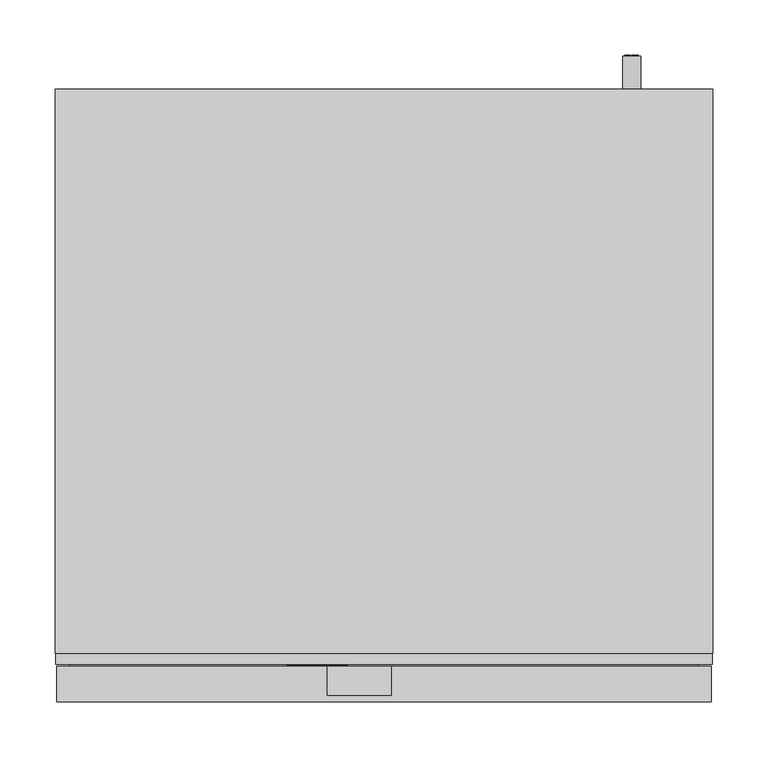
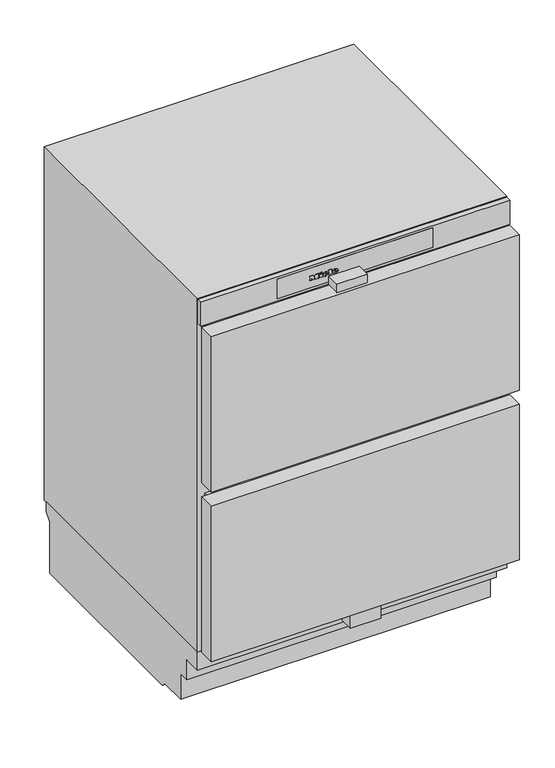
"""IFC4 building model written with IfcOpenShell, lengths in millimetres: proxy geometry, 12930520_USA_KU7175D : 36717510_USA_12930520_KU7175D."""

from ifc_helpers import new_model, si_unit, point, frame, frame_2d, origin, origin_with_axes, place, context, project, spatial, polyline, circle_curve, ellipse_curve, trimmed, segment, composite_curve, outline, extrude, faceted_brep, source, transform, mapped, element, save
from ifc_brep_helpers import plane_surface, cylinder_surface, revolved_surface, extruded_surface, advanced_brep


def specialty_equipment_b4c2bd8a(model_context):
    return source(origin(), model_context, "Body", "SolidModel", [
        extrude(outline(polyline([(835.9349293, -88.017), (835.9349293, -86.928), (829.9139293, -86.928), (829.9139293, -88.017), (828.4019293, -88.017), (828.4019293, -84.057), (829.9139293, -84.057), (829.9139293, -85.137), (833.7360541, -85.137), (828.4019293, -81.114), (833.8421516, -77.073), (829.9139293, -77.073), (829.9139293, -78.18), (828.4019293, -78.18), (828.4019293, -70.998), (829.9139293, -70.998), (829.9139293, -72.141), (835.9349293, -72.141), (835.9349293, -70.998), (837.4019293, -70.998), (837.4019293, -76.479), (834.0269293, -79.107), (837.4019293, -81.744), (837.4019293, -88.017), (835.9349293, -88.017)])), frame((0.0, 33.1, 0.0), z_axis=(0.0, 1.0, 0.0), x_axis=(0.0, 0.0, 1.0)), (0.0, 0.0, 1.0), 1.0),
        extrude(outline(polyline([(835.9349293, -51.495), (835.9349293, -50.415), (829.9139293, -50.415), (829.9139293, -51.495), (828.4019293, -51.495), (828.4019293, -44.196), (829.9139293, -44.196), (829.9139293, -45.303), (837.4019293, -45.303), (837.4019293, -51.495), (835.9349293, -51.495)])), frame((0.0, 33.1, 0.0), z_axis=(0.0, 1.0, 0.0), x_axis=(0.0, 0.0, 1.0)), (0.0, 0.0, 1.0), 1.0),
        extrude(outline(polyline([(836.8709293, -67.857), (835.4129293, -67.173), (836.8349293, -64.122), (838.2929293, -64.797), (836.8709293, -67.857)])), frame((0.0, 33.1, 0.0), z_axis=(0.0, 1.0, 0.0), x_axis=(0.0, 0.0, 1.0)), (0.0, 0.0, 1.0), 1.0),
        extrude(outline(polyline([(835.2149293, -70.08), (833.6039293, -70.08), (833.6039293, -69.009), (829.9139293, -69.009), (829.9139293, -70.08), (828.4019293, -70.08), (828.4019293, -62.979), (829.9139293, -62.979), (829.9139293, -64.023), (835.2149293, -64.023), (835.2149293, -70.08)])), frame((0.0, 33.1, 0.0), z_axis=(0.0, 1.0, 0.0), x_axis=(0.0, 0.0, 1.0)), (0.0, 0.0, 1.0), 1.0),
        advanced_brep(
        [(-58.02, 33.1, 830.5349293), (-58.02, 33.1, 831.4439293), (-51.999, 33.1, 831.4439293), (-62.475, 33.1, 831.4439293), (-60.0, 33.1, 828.4019293), (-52.152, 33.1, 830.5349293), (-54.87, 33.1, 830.5349293), (-57.012, 33.1, 829.5269293), (-58.02, 33.1, 832.5959293), (-58.02, 33.1, 833.5769293), (-56.481, 33.1, 833.5769293), (-56.481, 33.1, 832.5959293), (-58.02, 34.1, 830.5349293), (-57.012, 34.1, 829.5269293), (-54.87, 34.1, 830.5349293), (-52.152, 34.1, 830.5349293), (-60.0, 34.1, 828.4019293), (-62.475, 34.1, 831.4439293), (-51.999, 34.1, 831.4439293), (-58.02, 34.1, 831.4439293), (-58.02, 34.1, 832.5959293), (-56.481, 34.1, 832.5959293), (-56.481, 34.1, 833.5769293), (-58.02, 34.1, 833.5769293)],
        [
            (0, 1),
            (1, 2),
            (2, 3, ellipse_curve(frame((-57.237, 33.1, 831.4439293), z_axis=(0.0, -1.0, 0.0), x_axis=(-1.0, 0.0, 0.0)), 5.238, 4.329)),
            (3, 4, circle_curve(frame((-58.9919509, 33.1, 831.7499293), z_axis=(0.0, -1.0, 0.0), x_axis=(0.0, 0.0, -1.0)), 3.4964649)),
            (4, 5, circle_curve(frame((-57.3418572, 33.1, 834.1259293), z_axis=(0.0, -1.0, 0.0), x_axis=(0.0, 0.0, -1.0)), 6.3110933)),
            (5, 6),
            (6, 7, circle_curve(frame((-56.5720588, 33.1, 831.3719293), z_axis=(0.0, 1.0, 0.0), x_axis=(0.0, 0.0, -1.0)), 1.896727)),
            (7, 0, circle_curve(frame((-57.012, 33.1, 830.5349293), z_axis=(0.0, 1.0, 0.0), x_axis=(0.0, 0.0, -1.0)), 1.008)),
            (8, 9),
            (9, 10, circle_curve(frame((-57.2505, 33.1, 833.5769293), z_axis=(0.0, 1.0, 0.0), x_axis=(0.0, 0.0, -1.0)), 0.7695)),
            (10, 11),
            (11, 8),
            (12, 13, circle_curve(frame((-57.012, 34.1, 830.5349293), z_axis=(0.0, -1.0, 0.0), x_axis=(0.0, 0.0, -1.0)), 1.008)),
            (13, 14, circle_curve(frame((-56.5720588, 34.1, 831.3719293), z_axis=(0.0, -1.0, 0.0), x_axis=(0.0, 0.0, -1.0)), 1.896727)),
            (14, 15),
            (15, 16, circle_curve(frame((-57.3418572, 34.1, 834.1259293), z_axis=(0.0, 1.0, 0.0), x_axis=(0.0, 0.0, -1.0)), 6.3110933)),
            (16, 17, circle_curve(frame((-58.9919509, 34.1, 831.7499293), z_axis=(0.0, 1.0, 0.0), x_axis=(0.0, 0.0, -1.0)), 3.4964649)),
            (17, 18, ellipse_curve(frame((-57.237, 34.1, 831.4439293), z_axis=(0.0, 1.0, 0.0), x_axis=(-1.0, 0.0, 0.0)), 5.238, 4.329)),
            (18, 19),
            (19, 12),
            (20, 21),
            (21, 22),
            (22, 23, circle_curve(frame((-57.2505, 34.1, 833.5769293), z_axis=(0.0, -1.0, 0.0), x_axis=(0.0, 0.0, -1.0)), 0.7695)),
            (23, 20),
            (0, 12),
            (19, 1),
            (18, 2),
            (5, 15),
            (14, 6),
            (17, 3),
            (13, 7),
            (16, 4),
            (8, 20),
            (23, 9),
            (22, 10),
            (21, 11),
        ],
        [
            plane_surface(frame((-58.02, 33.1, 831.4439293), z_axis=(0.0, -1.0, 0.0), x_axis=(0.0, 0.0, 1.0))),
            plane_surface(frame((-58.02, 34.1, 831.4439293), z_axis=(0.0, 1.0, 0.0), x_axis=(0.0, 0.0, -1.0))),
            plane_surface(frame((-58.02, 33.1, 830.5349293), z_axis=(1.0, 0.0, 0.0), x_axis=(0.0, 1.0, 0.0))),
            plane_surface(frame((-58.02, 33.1, 831.4439293), z_axis=(0.0, 0.0, -1.0), x_axis=(0.0, 1.0, 0.0))),
            plane_surface(frame((-52.152, 33.1, 830.5349293), z_axis=(0.0, 0.0, 1.0), x_axis=(0.0, 1.0, 0.0))),
            extruded_surface(trimmed(ellipse_curve(frame((-57.237, 35.1, 831.4439293), z_axis=(0.0, -1.0, 0.0), x_axis=(-1.0, 0.0, 0.0)), 5.238, 4.329), [point((-51.999, 35.1, 831.4439293))], [point((-62.475, 35.1, 831.4439293))], True, "CARTESIAN"), (0.0, -1.0, 0.0), 1.0),
            revolved_surface(polyline([(-56.5720588, 34.1, 829.4752023), (-56.5720588, 33.1, 829.4752023)]), (-56.5720588, 34.1, 831.3719293), (0.0, 1.0, 0.0)),
            revolved_surface(polyline([(-57.012, 34.1, 829.5269293), (-57.012, 33.1, 829.5269293)]), (-57.012, 34.1, 830.5349293), (0.0, 1.0, 0.0)),
            cylinder_surface(frame((-58.9919509, 34.1, 831.7499293), z_axis=(0.0, -1.0, 0.0), x_axis=(0.0, 0.0, -1.0)), 3.4964649),
            cylinder_surface(frame((-57.3418572, 34.1, 834.1259293), z_axis=(0.0, -1.0, 0.0), x_axis=(0.0, 0.0, -1.0)), 6.3110933),
            plane_surface(frame((-58.02, 33.1, 832.5959293), z_axis=(1.0, 0.0, 0.0), x_axis=(0.0, 1.0, 0.0))),
            revolved_surface(polyline([(-57.2505, 34.1, 832.8074293), (-57.2505, 33.1, 832.8074293)]), (-57.2505, 34.1, 833.5769293), (0.0, 1.0, 0.0)),
            plane_surface(frame((-56.481, 33.1, 833.5769293), z_axis=(-1.0, 0.0, 0.0), x_axis=(0.0, 1.0, 0.0))),
            plane_surface(frame((-56.481, 33.1, 832.5959293), z_axis=(0.0, 0.0, 1.0), x_axis=(0.0, 1.0, 0.0))),
        ],
        [
            (0, [[1, 2, 3, 4, 5, 6, 7, 8], [9, 10, 11, 12]]),
            (1, [[13, 14, 15, 16, 17, 18, 19, 20], [21, 22, 23, 24]]),
            (2, [[-1, 25, -20, 26]]),
            (3, [[-2, -26, -19, 27]]),
            (4, [[-6, 28, -15, 29]]),
            (5, [[-3, -27, -18, 30]]),
            (6, [[-7, -29, -14, 31]]),
            (7, [[-8, -31, -13, -25]]),
            (8, [[-4, -30, -17, 32]]),
            (9, [[-5, -32, -16, -28]]),
            (10, [[-9, 33, -24, 34]]),
            (11, [[-10, -34, -23, 35]]),
            (12, [[-11, -35, -22, 36]]),
            (13, [[-12, -36, -21, -33]]),
        ],
    ),
        advanced_brep(
        [(-39.237, 33.1, 830.5349293), (-39.237, 33.1, 831.4439293), (-33.216, 33.1, 831.4439293), (-43.692, 33.1, 831.4439293), (-41.217, 33.1, 828.4019293), (-33.369, 33.1, 830.5349293), (-36.087, 33.1, 830.5349293), (-38.229, 33.1, 829.5269293), (-39.237, 33.1, 832.5959293), (-39.237, 33.1, 833.5769293), (-37.698, 33.1, 833.5769293), (-37.698, 33.1, 832.5959293), (-39.237, 34.1, 830.5349293), (-38.229, 34.1, 829.5269293), (-36.087, 34.1, 830.5349293), (-33.369, 34.1, 830.5349293), (-41.217, 34.1, 828.4019293), (-43.692, 34.1, 831.4439293), (-33.216, 34.1, 831.4439293), (-39.237, 34.1, 831.4439293), (-39.237, 34.1, 832.5959293), (-37.698, 34.1, 832.5959293), (-37.698, 34.1, 833.5769293), (-39.237, 34.1, 833.5769293)],
        [
            (0, 1),
            (1, 2),
            (2, 3, ellipse_curve(frame((-38.454, 33.1, 831.4439293), z_axis=(0.0, -1.0, 0.0), x_axis=(-1.0, 0.0, 0.0)), 5.238, 4.329)),
            (3, 4, circle_curve(frame((-40.2089509, 33.1, 831.7499293), z_axis=(0.0, -1.0, 0.0), x_axis=(0.0, 0.0, -1.0)), 3.4964649)),
            (4, 5, circle_curve(frame((-38.5588572, 33.1, 834.1259293), z_axis=(0.0, -1.0, 0.0), x_axis=(0.0, 0.0, -1.0)), 6.3110933)),
            (5, 6),
            (6, 7, circle_curve(frame((-37.7890588, 33.1, 831.3719293), z_axis=(0.0, 1.0, 0.0), x_axis=(0.0, 0.0, -1.0)), 1.896727)),
            (7, 0, circle_curve(frame((-38.229, 33.1, 830.5349293), z_axis=(0.0, 1.0, 0.0), x_axis=(0.0, 0.0, -1.0)), 1.008)),
            (8, 9),
            (9, 10, circle_curve(frame((-38.4675, 33.1, 833.5769293), z_axis=(0.0, 1.0, 0.0), x_axis=(0.0, 0.0, -1.0)), 0.7695)),
            (10, 11),
            (11, 8),
            (12, 13, circle_curve(frame((-38.229, 34.1, 830.5349293), z_axis=(0.0, -1.0, 0.0), x_axis=(0.0, 0.0, -1.0)), 1.008)),
            (13, 14, circle_curve(frame((-37.7890588, 34.1, 831.3719293), z_axis=(0.0, -1.0, 0.0), x_axis=(0.0, 0.0, -1.0)), 1.896727)),
            (14, 15),
            (15, 16, circle_curve(frame((-38.5588572, 34.1, 834.1259293), z_axis=(0.0, 1.0, 0.0), x_axis=(0.0, 0.0, -1.0)), 6.3110933)),
            (16, 17, circle_curve(frame((-40.2089509, 34.1, 831.7499293), z_axis=(0.0, 1.0, 0.0), x_axis=(0.0, 0.0, -1.0)), 3.4964649)),
            (17, 18, ellipse_curve(frame((-38.454, 34.1, 831.4439293), z_axis=(0.0, 1.0, 0.0), x_axis=(-1.0, 0.0, 0.0)), 5.238, 4.329)),
            (18, 19),
            (19, 12),
            (20, 21),
            (21, 22),
            (22, 23, circle_curve(frame((-38.4675, 34.1, 833.5769293), z_axis=(0.0, -1.0, 0.0), x_axis=(0.0, 0.0, -1.0)), 0.7695)),
            (23, 20),
            (0, 12),
            (19, 1),
            (18, 2),
            (5, 15),
            (14, 6),
            (17, 3),
            (13, 7),
            (16, 4),
            (8, 20),
            (23, 9),
            (22, 10),
            (21, 11),
        ],
        [
            plane_surface(frame((-39.237, 33.1, 831.4439293), z_axis=(0.0, -1.0, 0.0), x_axis=(0.0, 0.0, 1.0))),
            plane_surface(frame((-39.237, 34.1, 831.4439293), z_axis=(0.0, 1.0, 0.0), x_axis=(0.0, 0.0, -1.0))),
            plane_surface(frame((-39.237, 33.1, 830.5349293), z_axis=(1.0, 0.0, 0.0), x_axis=(0.0, 1.0, 0.0))),
            plane_surface(frame((-39.237, 33.1, 831.4439293), z_axis=(0.0, 0.0, -1.0), x_axis=(0.0, 1.0, 0.0))),
            plane_surface(frame((-33.369, 33.1, 830.5349293), z_axis=(0.0, 0.0, 1.0), x_axis=(0.0, 1.0, 0.0))),
            extruded_surface(trimmed(ellipse_curve(frame((-38.454, 35.1, 831.4439293), z_axis=(0.0, -1.0, 0.0), x_axis=(-1.0, 0.0, 0.0)), 5.238, 4.329), [point((-33.216, 35.1, 831.4439293))], [point((-43.692, 35.1, 831.4439293))], True, "CARTESIAN"), (0.0, -1.0, 0.0), 1.0),
            revolved_surface(polyline([(-37.7890588, 34.1, 829.4752023), (-37.7890588, 33.1, 829.4752023)]), (-37.7890588, 34.1, 831.3719293), (0.0, 1.0, 0.0)),
            revolved_surface(polyline([(-38.229, 34.1, 829.5269293), (-38.229, 33.1, 829.5269293)]), (-38.229, 34.1, 830.5349293), (0.0, 1.0, 0.0)),
            cylinder_surface(frame((-40.2089509, 34.1, 831.7499293), z_axis=(0.0, -1.0, 0.0), x_axis=(0.0, 0.0, -1.0)), 3.4964649),
            cylinder_surface(frame((-38.5588572, 34.1, 834.1259293), z_axis=(0.0, -1.0, 0.0), x_axis=(0.0, 0.0, -1.0)), 6.3110933),
            plane_surface(frame((-39.237, 33.1, 832.5959293), z_axis=(1.0, 0.0, 0.0), x_axis=(0.0, 1.0, 0.0))),
            revolved_surface(polyline([(-38.4675, 34.1, 832.8074293), (-38.4675, 33.1, 832.8074293)]), (-38.4675, 34.1, 833.5769293), (0.0, 1.0, 0.0)),
            plane_surface(frame((-37.698, 33.1, 833.5769293), z_axis=(-1.0, 0.0, 0.0), x_axis=(0.0, 1.0, 0.0))),
            plane_surface(frame((-37.698, 33.1, 832.5959293), z_axis=(0.0, 0.0, 1.0), x_axis=(0.0, 1.0, 0.0))),
        ],
        [
            (0, [[1, 2, 3, 4, 5, 6, 7, 8], [9, 10, 11, 12]]),
            (1, [[13, 14, 15, 16, 17, 18, 19, 20], [21, 22, 23, 24]]),
            (2, [[-1, 25, -20, 26]]),
            (3, [[-2, -26, -19, 27]]),
            (4, [[-6, 28, -15, 29]]),
            (5, [[-3, -27, -18, 30]]),
            (6, [[-7, -29, -14, 31]]),
            (7, [[-8, -31, -13, -25]]),
            (8, [[-4, -30, -17, 32]]),
            (9, [[-5, -32, -16, -28]]),
            (10, [[-9, 33, -24, 34]]),
            (11, [[-10, -34, -23, 35]]),
            (12, [[-11, -35, -22, 36]]),
            (13, [[-12, -36, -21, -33]]),
        ],
    ),
        extrude(outline(polyline([(150.0048218, 34.0937347), (-150.0048218, 34.0937347), (-150.0048218, 44.0), (150.0048218, 44.0), (150.0048218, 34.0937347)])), frame((0.0, 0.0, 813.2139282), z_axis=(0.0, 0.0, 1.0), x_axis=(1.0, 0.0, 0.0)), (0.0, 0.0, 1.0), 39.9850464),
        extrude(outline(polyline([(857.6989746, 298.0), (857.6989746, -298.0), (808.7051238, -298.0), (808.7051238, 298.0), (857.6989746, 298.0)]), holes=[polyline([(853.1989746, -150.0048218), (853.1989746, 150.0048218), (813.2139282, 150.0048218), (813.2139282, -150.0048218), (853.1989746, -150.0048218)])]), frame((0.0, 34.0937347, 0.0), z_axis=(0.0, 1.0, 0.0), x_axis=(0.0, 0.0, 1.0)), (0.0, 0.0, 1.0), 9.9062653),
        faceted_brep([(-298.5, 550.1, 137.8999939), (-298.5, 550.1, 117.6051112), (-298.5, 537.6, 105.1051112), (-298.5, 537.6, 0.0), (-298.5, 161.2567793, 0.0), (-298.5, 152.9391747, 8.3176046), (-298.5, 100.0, 8.3176046), (-298.5, 100.0, 60.7725754), (-298.5, 79.0216446, 60.7725754), (-298.5, 79.0216446, 101.8184894), (-298.5, 44.0, 101.8184894), (-298.5, 44.0, 137.8999939), (298.5, 550.1, 137.8999939), (298.5, 44.0, 137.8999939), (298.5, 44.0, 101.8184894), (298.5, 79.0216446, 101.8184894), (298.5, 79.0216446, 60.7725754), (298.5, 100.0, 60.7725754), (298.5, 100.0, 8.3176046), (298.5, 152.9391747, 8.3176046), (298.5, 161.2567793, 0.0), (298.5, 537.6, 0.0), (298.5, 537.6, 105.1051112), (298.5, 550.1, 117.6051112), (296.7000122, 463.8596389, 0.0), (256.5957336, 463.8596389, 0.0), (256.5957336, 399.1975098, 0.0), (296.7000122, 399.1975098, 0.0), (-296.7000122, 463.8596389, 0.0), (-296.7000122, 399.1975098, 0.0), (-256.5957336, 399.1975098, 0.0), (-256.5957336, 463.8596389, 0.0), (296.7000122, 463.8596389, 8.7371401), (296.7000122, 399.1975098, 8.7371401), (256.5957336, 399.1975098, 8.7371401), (256.5957336, 463.8596389, 8.7371401), (-296.7000122, 463.8596389, 8.7371401), (-256.5957336, 463.8596389, 8.7371401), (-256.5957336, 399.1975098, 8.7371401), (-296.7000122, 399.1975098, 8.7371401)], [[[0, 1, 2, 3, 4, 5, 6, 7, 8, 9, 10, 11]], [[12, 13, 14, 15, 16, 17, 18, 19, 20, 21, 22, 23]], [[0, 11, 13, 12]], [[11, 10, 14, 13]], [[10, 9, 15, 14]], [[9, 8, 16, 15]], [[8, 7, 17, 16]], [[7, 6, 18, 17]], [[6, 5, 19, 18]], [[5, 4, 20, 19]], [[4, 3, 21, 20], [24, 25, 26, 27], [28, 29, 30, 31]], [[3, 2, 22, 21]], [[2, 1, 23, 22]], [[1, 0, 12, 23]], [[32, 33, 34, 35]], [[36, 37, 38, 39]], [[32, 35, 25, 24]], [[35, 34, 26, 25]], [[34, 33, 27, 26]], [[33, 32, 24, 27]], [[36, 39, 29, 28]], [[39, 38, 30, 29]], [[38, 37, 31, 30]], [[37, 36, 28, 31]]]),
        faceted_brep([(298.5, 44.0, 859.0), (298.5, 44.0, 137.8999939), (298.5, 556.2, 137.8999939), (298.5, 556.2, 859.0), (-298.5, 44.0, 859.0), (-298.5, 556.2, 859.0), (-298.5, 556.2, 137.8999939), (-298.5, 44.0, 137.8999939), (263.0, 44.0, 759.0), (263.0, 44.0, 160.0), (-263.0, 44.0, 160.0), (-263.0, 44.0, 759.0), (263.0, 510.8638012, 160.0), (263.0, 510.8638012, 759.0), (-263.0, 510.8638012, 759.0), (-263.0, 510.8638012, 160.0)], [[[0, 1, 2, 3]], [[4, 5, 6, 7]], [[1, 0, 4, 7], [8, 9, 10, 11]], [[2, 1, 7, 6]], [[3, 2, 6, 5]], [[0, 3, 5, 4]], [[12, 13, 14, 15]], [[13, 12, 9, 8]], [[14, 13, 8, 11]], [[15, 14, 11, 10]], [[12, 15, 10, 9]]]),
        extrude(outline(polyline([(263.0, 510.8638012), (263.0, 339.3), (-263.0, 339.3), (-263.0, 510.8638012), (263.0, 510.8638012)])), frame((0.0, 0.0, 160.0), z_axis=(0.0, 0.0, 1.0), x_axis=(1.0, 0.0, 0.0)), (0.0, 0.0, 1.0), 61.8999939),
        extrude(outline(composite_curve([segment(trimmed(circle_curve(frame_2d((-270.8532135, 136.0)), 15.7049948), [point((-286.5582083, 136.0))], [point((-255.1482187, 136.0))], False, "CARTESIAN"), True, "CONTINUOUS"), segment(trimmed(circle_curve(frame_2d((-270.8532135, 136.0)), 15.7049948), [point((-255.1482187, 136.0))], [point((-286.5582083, 136.0))], False, "CARTESIAN"), True, "CONTINUOUS")], self_intersect=False)), origin_with_axes(), (0.0, 0.0, 1.0), 8.3176046),
        extrude(outline(composite_curve([segment(trimmed(circle_curve(frame_2d((270.8532135, 136.0)), 15.7049948), [point((286.5582083, 136.0))], [point((255.1482187, 136.0))], False, "CARTESIAN"), True, "CONTINUOUS"), segment(trimmed(circle_curve(frame_2d((270.8532135, 136.0)), 15.7049948), [point((255.1482187, 136.0))], [point((286.5582083, 136.0))], False, "CARTESIAN"), True, "CONTINUOUS")], self_intersect=False)), origin_with_axes(), (0.0, 0.0, 1.0), 8.3176046),
        extrude(outline(composite_curve([segment(trimmed(circle_curve(frame_2d((-275.822369, 437.7)), 16.0), [point((-291.822369, 437.7))], [point((-259.822369, 437.7))], False, "CARTESIAN"), True, "CONTINUOUS"), segment(trimmed(circle_curve(frame_2d((-275.822369, 437.7)), 16.0), [point((-259.822369, 437.7))], [point((-291.822369, 437.7))], False, "CARTESIAN"), True, "CONTINUOUS")], self_intersect=False)), origin_with_axes(), (0.0, 0.0, 1.0), 8.3176046),
        extrude(outline(composite_curve([segment(trimmed(circle_curve(frame_2d((275.822369, 437.7)), 16.0), [point((259.822369, 437.7))], [point((291.822369, 437.7))], False, "CARTESIAN"), True, "CONTINUOUS"), segment(trimmed(circle_curve(frame_2d((275.822369, 437.7)), 16.0), [point((291.822369, 437.7))], [point((259.822369, 437.7))], False, "CARTESIAN"), True, "CONTINUOUS")], self_intersect=False)), origin_with_axes(), (0.0, 0.0, 1.0), 8.3176046),
        extrude(outline(polyline([(263.0, 44.0), (-263.0, 44.0), (-263.0, 510.8638012), (263.0, 510.8638012), (263.0, 44.0)])), frame((0.0, 0.0, 429.4645996), z_axis=(0.0, 0.0, 1.0), x_axis=(1.0, 0.0, 0.0)), (0.0, 0.0, 1.0), 94.0),
        extrude(outline(composite_curve([segment(polyline([(-167.6368194, 33.3343317), (-174.9999695, 43.8499999), (174.9999695, 43.8499999), (167.6368194, 33.3343317)]), True, "CONTINUOUS"), segment(trimmed(circle_curve(frame_2d((166.0338376, 34.4567516)), 1.9568794), [point((167.6368194, 33.3343317))], [point((166.0114746, 32.5))], False, "CARTESIAN"), True, "CONTINUOUS"), segment(polyline([(166.0114746, 32.5), (-166.0114746, 32.5)]), True, "CONTINUOUS"), segment(trimmed(circle_curve(frame_2d((-166.0338376, 34.4567516)), 1.9568794), [point((-166.0114746, 32.5))], [point((-167.6368194, 33.3343317))], False, "CARTESIAN"), True, "CONTINUOUS")], self_intersect=False)), frame((0.0, 0.0, 466.532135), z_axis=(0.0, 0.0, 1.0), x_axis=(1.0, 0.0, 0.0)), (0.0, 0.0, 1.0), 19.8649292),
        extrude(outline(composite_curve([segment(trimmed(circle_curve(frame_2d((144.2460785, 224.8152695)), 8.0), [point((144.2460785, 216.8152695))], [point((144.2460785, 232.8152695))], False, "CARTESIAN"), True, "CONTINUOUS"), segment(trimmed(circle_curve(frame_2d((144.2460785, 224.8152695)), 8.0), [point((144.2460785, 232.8152695))], [point((144.2460785, 216.8152695))], False, "CARTESIAN"), True, "CONTINUOUS")], self_intersect=False)), frame((0.0, 556.2, 0.0), z_axis=(0.0, 1.0, 0.0), x_axis=(0.0, 0.0, 1.0)), (0.0, 0.0, 1.0), 30.0),
        extrude(outline(polyline([(140.2460785, 230.7170777), (148.2825833, 230.7170777), (148.2825833, 224.9408399), (147.2780202, 224.9408399), (147.2780202, 229.7125146), (144.8921828, 229.7125146), (144.8921828, 225.1919806), (143.8876197, 225.1919806), (143.8876197, 229.7125146), (141.2506416, 229.7125146), (141.2506416, 224.8152695), (140.2460785, 224.8152695), (140.2460785, 230.7170777)])), frame((0.0, 586.2, 0.0), z_axis=(0.0, 1.0, 0.0), x_axis=(0.0, 0.0, 1.0)), (0.0, 0.0, 1.0), 1.0),
        extrude(outline(polyline([(140.2460785, 223.3084248), (148.2825833, 223.3084248), (148.2825833, 222.3038617), (141.2506416, 222.3038617), (141.2506416, 218.2856093), (140.2460785, 218.2856093), (140.2460785, 223.3084248)])), frame((0.0, 586.2, 0.0), z_axis=(0.0, 1.0, 0.0), x_axis=(0.0, 0.0, 1.0)), (0.0, 0.0, 1.0), 1.0),
        faceted_brep([(297.0, 0.0, 808.0), (-297.0, 0.0, 808.0), (-297.0, 0.0, 491.0), (297.0, 0.0, 491.0), (-297.0, 32.0, 808.0), (297.0, 32.0, 808.0), (297.0, 32.0, 494.5), (297.0, 32.0, 491.0), (-297.0, 32.0, 491.0), (-297.0, 32.0, 494.5)], [[[0, 1, 2, 3]], [[4, 5, 6, 7, 8, 9]], [[1, 0, 5, 4]], [[1, 4, 9, 8, 2]], [[5, 0, 3, 7, 6]], [[3, 2, 8, 7]]]),
        faceted_brep([(-297.0, 0.0, 145.0), (297.0, 0.0, 145.0), (297.0, 0.0, 462.0), (-297.0, 0.0, 462.0), (297.0, 32.0, 145.0), (-297.0, 32.0, 145.0), (-297.0, 32.0, 458.5), (-297.0, 32.0, 462.0), (297.0, 32.0, 462.0), (297.0, 32.0, 458.5)], [[[0, 1, 2, 3]], [[4, 5, 6, 7, 8, 9]], [[5, 0, 3, 7, 6]], [[1, 0, 5, 4]], [[1, 4, 9, 8, 2]], [[3, 2, 8, 7]]]),
        extrude(outline(polyline([(-285.0, 44.0), (285.0, 44.0), (285.0, 32.0), (-285.0, 32.0), (-285.0, 44.0)])), frame((0.0, 0.0, 494.5), z_axis=(0.0, 0.0, 1.0), x_axis=(1.0, 0.0, 0.0)), (0.0, 0.0, 1.0), 310.0),
        extrude(outline(polyline([(285.0, 44.0), (285.0, 32.0), (-285.0, 32.0), (-285.0, 44.0), (285.0, 44.0)])), frame((0.0, 0.0, 148.5030441), z_axis=(0.0, 0.0, 1.0), x_axis=(1.0, 0.0, 0.0)), (0.0, 0.0, 1.0), 309.9969559),
        extrude(outline(polyline([(6.7999997, 5.75), (-51.7000008, 5.75), (-51.7000008, 32.0), (6.7999997, 32.0), (6.7999997, 5.75)])), frame((0.0, 0.0, 808.0), z_axis=(0.0, 0.0, 1.0), x_axis=(1.0, 0.0, 0.0)), (0.0, 0.0, 1.0), 17.7000122),
        extrude(outline(polyline([(32.7999992, 5.75), (-25.7000008, 5.75), (-25.7000008, 32.0), (32.7999992, 32.0), (32.7999992, 5.75)])), frame((0.0, 0.0, 114.8000031), z_axis=(0.0, 0.0, 1.0), x_axis=(1.0, 0.0, 0.0)), (0.0, 0.0, 1.0), 30.1999969),
    ])


if __name__ == "__main__":
    model = new_model("IFC4")
    model_context = context("Model", 3, world=origin())
    ifc_project = project(units=[si_unit("LENGTHUNIT", "METRE", prefix="MILLI")], contexts=[model_context])
    site = spatial("IfcSite", under=ifc_project)
    building = spatial("IfcBuilding", under=site)
    placement = place(None, origin())
    specialty_equipment_shape = specialty_equipment_b4c2bd8a(model_context)
    element("IfcBuildingElementProxy", 1, Name="12930520_USA_KU7175D : 36717510_USA_12930520_KU7175D", ObjectType="12930520_USA_KU7175D : 36717510_USA_12930520_KU7175D", at=placement, inside=building, context=model_context, shape_type="MappedRepresentation", body=[
        mapped(specialty_equipment_shape, transform((0.0, 0.0, 0.0), x_axis=(1.0, 0.0, 0.0), y_axis=(0.0, 1.0, 0.0), z_axis=(0.0, 0.0, 1.0))),
    ])
    save(model, "model.ifc")
